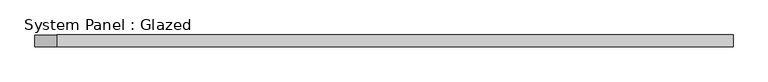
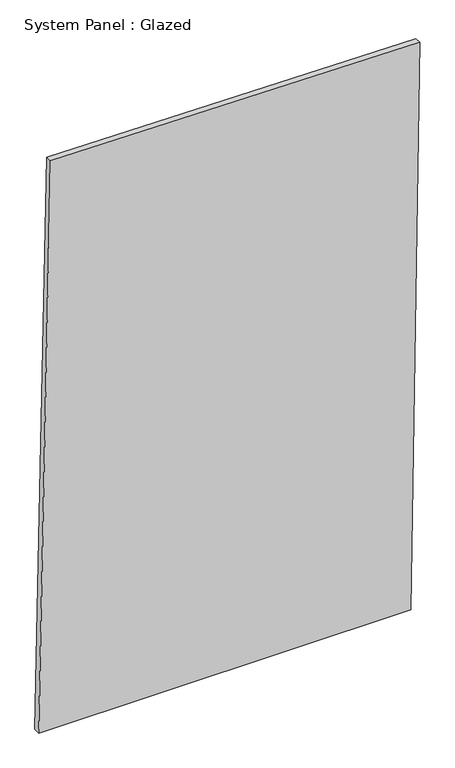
"""IFC4 building model written with IfcOpenShell, lengths in millimetres: plate geometry, System Panel : Glazed."""

import ifcopenshell
import ifcopenshell.guid

model = None  # the IFC model being written
_history = None  # IfcOwnerHistory: only IFC2X3 demands one
_inside = {}  # id of a spatial element -> (the spatial element, [elements in it])
_under = {}  # id of a project, library or spatial element -> (it, [spatial elements below it])
_declared = {}  # id of a project -> (the project, [libraries it declares])
_typed = {}  # id of a type object -> (the type object, [elements of that type])
_made_of = {}  # id of a material, layer set ... -> (it, [elements and type objects made of it])


def new_model(schema):
    """Start an empty IFC model of exactly this schema.

    Asked for "IFC4X3", IfcOpenShell would pick the latest addendum, in which some entities
    have other attributes; the version numbers below select the first issue.
    IFC2X3 requires an IfcOwnerHistory on every rooted entity: one is made here for all.
    """
    global model, _history
    if schema == "IFC4X3":
        model = ifcopenshell.file(schema_version=(4, 3, 0, 0))
    else:
        model = ifcopenshell.file(schema=schema)
    _inside.clear()
    _under.clear()
    _declared.clear()
    _typed.clear()
    _made_of.clear()
    _history = None
    if model.schema == "IFC2X3":
        org = make("IfcOrganization", Name="unknown")
        user = make(
            "IfcPersonAndOrganization",
            ThePerson=make("IfcPerson", FamilyName="unknown"),
            TheOrganization=org,
        )
        app = make(
            "IfcApplication",
            ApplicationDeveloper=org,
            Version="unknown",
            ApplicationFullName="unknown",
            ApplicationIdentifier="unknown",
        )
        _history = make(
            "IfcOwnerHistory",
            OwningUser=user,
            OwningApplication=app,
            ChangeAction="ADDED",
            CreationDate=0,
        )
    return model


def make(cls, **values):
    """One entity of the class cls with the attributes given. An attribute that is None is left unset."""
    return model.create_entity(
        cls, **{name: value for name, value in values.items() if value is not None}
    )


def rooted(cls, **values):
    """An entity with a GlobalId (a new one), such as an element, a storey or a relation."""
    return make(cls, GlobalId=ifcopenshell.guid.new(), OwnerHistory=_history, **values)


def si_unit(unit_type, name, prefix=None):
    """IfcSIUnit, for example si_unit("LENGTHUNIT", "METRE", prefix="MILLI")."""
    return make("IfcSIUnit", UnitType=unit_type, Prefix=prefix, Name=name)


def assignment(units):
    """IfcUnitAssignment: the units of a project."""
    return None if units is None else make("IfcUnitAssignment", Units=units)


def point(xyz):
    """IfcCartesianPoint."""
    return None if xyz is None else make("IfcCartesianPoint", Coordinates=xyz)


def direction(xyz):
    """IfcDirection."""
    return None if xyz is None else make("IfcDirection", DirectionRatios=xyz)


def frame(location, z_axis=None, x_axis=None):
    """IfcAxis2Placement3D, a coordinate frame: its origin and axes. An axis left out is left unset."""
    return make(
        "IfcAxis2Placement3D",
        Location=point(location),
        Axis=direction(z_axis),
        RefDirection=direction(x_axis),
    )


def origin():
    """The frame at (0, 0, 0) with its axes left unset."""
    return frame((0.0, 0.0, 0.0))


def place(relative_to, where):
    """IfcLocalPlacement: puts the frame where relative to a parent placement (None: the world)."""
    return make(
        "IfcLocalPlacement", PlacementRelTo=relative_to, RelativePlacement=where
    )


def context(
    kind, dimensions, precision=None, world=None, true_north=None, identifier=None
):
    """IfcGeometricRepresentationContext, for example the 3D "Model" context."""
    return make(
        "IfcGeometricRepresentationContext",
        ContextIdentifier=identifier,
        ContextType=kind,
        CoordinateSpaceDimension=dimensions,
        Precision=precision,
        WorldCoordinateSystem=world,
        TrueNorth=true_north,
    )


def project(units=None, contexts=None):
    """IfcProject with its units and contexts."""
    return rooted(
        "IfcProject",
        Name="project",
        RepresentationContexts=contexts,
        UnitsInContext=assignment(units),
    )


def spatial(cls, under=None, at=None, **own):
    """A site, building, storey or space (cls), placed at a placement, below another one or the project."""
    s = rooted(cls, ObjectPlacement=at, **own)
    if under is not None:
        _under.setdefault(under.id(), (under, []))[1].append(s)
    return s


def polyline(points):
    """IfcPolyline through the points."""
    return make("IfcPolyline", Points=[point(p) for p in points])


def outline(outer, holes=None, kind="AREA"):
    """IfcArbitraryClosedProfileDef: a profile drawn as a closed curve; with holes, ...WithVoids."""
    if holes is None:
        return make("IfcArbitraryClosedProfileDef", ProfileType=kind, OuterCurve=outer)
    return make(
        "IfcArbitraryProfileDefWithVoids",
        ProfileType=kind,
        OuterCurve=outer,
        InnerCurves=holes,
    )


def extrude(swept, where, along, depth):
    """IfcExtrudedAreaSolid: the profile swept, set in the frame where, extruded along a direction by depth."""
    return make(
        "IfcExtrudedAreaSolid",
        SweptArea=swept,
        Position=where,
        ExtrudedDirection=direction(along),
        Depth=depth,
    )


def shape(context_of_items, identifier, shape_type, items):
    """IfcShapeRepresentation: the items that make up one representation, for example the "Body"."""
    return make(
        "IfcShapeRepresentation",
        ContextOfItems=context_of_items,
        RepresentationIdentifier=identifier,
        RepresentationType=shape_type,
        Items=items,
    )


def source(mapping_origin, context_of_items, identifier, shape_type, items):
    """IfcRepresentationMap: a shape defined once, which mapped items show again and again."""
    return make(
        "IfcRepresentationMap",
        MappingOrigin=mapping_origin,
        MappedRepresentation=shape(context_of_items, identifier, shape_type, items),
    )


def transform(
    local_origin,
    x_axis=None,
    y_axis=None,
    z_axis=None,
    scale=None,
    scale2=None,
    scale3=None,
    uniform=True,
):
    """IfcCartesianTransformationOperator3D, or its non-uniform kind. x_axis, y_axis, z_axis: its Axis1, 2, 3."""
    if uniform:
        return make(
            "IfcCartesianTransformationOperator3D",
            Axis1=direction(x_axis),
            Axis2=direction(y_axis),
            LocalOrigin=point(local_origin),
            Scale=scale,
            Axis3=direction(z_axis),
        )
    return make(
        "IfcCartesianTransformationOperator3DnonUniform",
        Axis1=direction(x_axis),
        Axis2=direction(y_axis),
        LocalOrigin=point(local_origin),
        Scale=scale,
        Axis3=direction(z_axis),
        Scale2=scale2,
        Scale3=scale3,
    )


def mapped(mapping_source, mapping_target):
    """IfcMappedItem: shows the shape of a source again, moved by a transform."""
    return make(
        "IfcMappedItem", MappingSource=mapping_source, MappingTarget=mapping_target
    )


def made_of(thing, what):
    """Note that an element or type object is made of a material, layer set ...; save() writes the relation."""
    if what is not None:
        _made_of.setdefault(what.id(), (what, []))[1].append(thing)
    return thing


def element(
    cls,
    number,
    at=None,
    inside=None,
    cuts=None,
    type_object=None,
    material=None,
    context=None,
    identifier="Body",
    shape_type=None,
    held_by="IfcProductDefinitionShape",
    body=None,
    shapes=None,
    **own,
):
    """One element of the class cls, such as IfcWall. Its Tag is "e" and its number.

    at: its placement. inside: the storey or other place that contains it. cuts: it is an
    opening in that element (IfcRelVoidsElement). A single representation is given by context,
    identifier, shape_type and body (its items); several are given by shapes. held_by: the class
    of the entity that holds the representations. save() writes the other relations.
    """
    e = rooted(cls, Tag="e%d" % number, ObjectPlacement=at, **own)
    if body is not None:
        shapes = [shape(context, identifier, shape_type, body)]
    if shapes is not None:
        e.Representation = make(held_by, Representations=shapes)
    if inside is not None:
        _inside.setdefault(inside.id(), (inside, []))[1].append(e)
    if cuts is not None:
        rooted(
            "IfcRelVoidsElement", RelatingBuildingElement=cuts, RelatedOpeningElement=e
        )
    if type_object is not None:
        _typed.setdefault(type_object.id(), (type_object, []))[1].append(e)
    return made_of(e, material)


def aggregate(whole, parts):
    """IfcRelAggregates: a whole, such as a stair, and the parts it consists of."""
    return rooted("IfcRelAggregates", RelatingObject=whole, RelatedObjects=parts)


def save(model, path):
    """Write the relations noted so far, then the file.

    IfcRelAggregates (storeys below a building ...), IfcRelContainedInSpatialStructure (elements
    in a storey), IfcRelDefinesByType, IfcRelAssociatesMaterial and IfcRelDeclares: one each for
    every whole, place, type object, material and project.
    """
    for whole, parts in _under.values():
        aggregate(whole, parts)
    for where, things in _inside.values():
        rooted(
            "IfcRelContainedInSpatialStructure",
            RelatedElements=things,
            RelatingStructure=where,
        )
    for kind, things in _typed.values():
        rooted("IfcRelDefinesByType", RelatedObjects=things, RelatingType=kind)
    for what, things in _made_of.values():
        rooted("IfcRelAssociatesMaterial", RelatedObjects=things, RelatingMaterial=what)
    for by, libraries in _declared.values():
        rooted("IfcRelDeclares", RelatingContext=by, RelatedDefinitions=libraries)
    model.write(path)


def system_panel_glazed_4e854008(model_context):
    return source(origin(), model_context, "Body", "SweptSolid", [
        extrude(outline(polyline([(0.0, -743.5517797), (0.0, 709.7081452), (2329.6651097, 743.5517797), (2345.3125537, -697.1582365), (0.0, -743.5517797)])), frame((0.0, -49.5, 0.0), z_axis=(0.0, 1.0, 0.0), x_axis=(0.0, 0.0, 1.0)), (0.0, 0.0, 1.0), 25.0),
    ])


if __name__ == "__main__":
    model = new_model("IFC4")
    model_context = context("Model", 3, world=origin())
    ifc_project = project(units=[si_unit("LENGTHUNIT", "METRE", prefix="MILLI")], contexts=[model_context])
    site = spatial("IfcSite", under=ifc_project)
    building = spatial("IfcBuilding", under=site)
    placement = place(None, origin())
    system_panel_glazed_shape = system_panel_glazed_4e854008(model_context)
    element("IfcPlate", 1, ObjectType="System Panel : Glazed", at=placement, inside=building, context=model_context, shape_type="MappedRepresentation", body=[
        mapped(system_panel_glazed_shape, transform((0.0, 0.0, 0.0), x_axis=(1.0, 0.0, 0.0), y_axis=(0.0, 1.0, 0.0), z_axis=(0.0, 0.0, 1.0))),
    ])
    save(model, "model.ifc")
